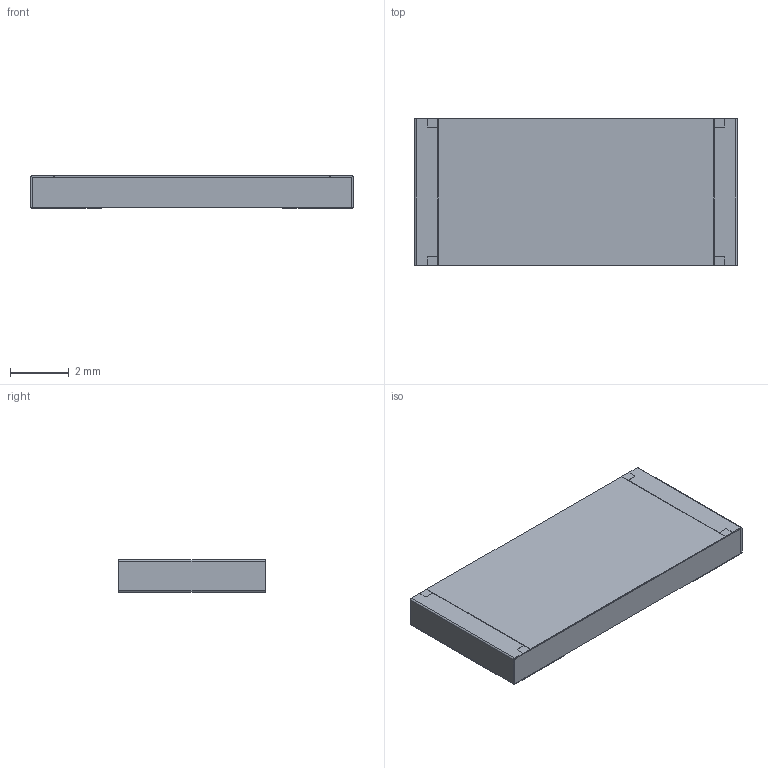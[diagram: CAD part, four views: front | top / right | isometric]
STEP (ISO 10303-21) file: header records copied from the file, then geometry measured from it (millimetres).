
FILE_DESCRIPTION(/* description */ ('Unknown'),/* implementation_level */ '2;1');
FILE_NAME(/* name */ '355012RJT',/* time_stamp */ '2024-10-14T14:52:04+02:00',/* author */ ('Unknown'),/* organization */ ('Unknown'),/* preprocessor_version */ 'ST-DEVELOPER v18.102',/* originating_system */ 'Solid Edge',/* authorisation */ 'Unknown');
FILE_SCHEMA (('AUTOMOTIVE_DESIGN {1 0 10303 214 3 1 1}'));
Length unit declared in the file: millimetre
Products named in the file (1): 355012RJT
Bounding box: 11 x 5 x 1.1 mm (x, y, z)
Volume: 59.6 mm3; surface area: 145.5 mm2
Topology: 1 solids, 1 shells, 66 faces, 184 edges, 120 vertices
Faces by surface type: plane 50, cylinder 16
Entity records: 2583 total; most frequent: CARTESIAN_POINT 371, ORIENTED_EDGE 368, DIRECTION 350, EDGE_CURVE 184, LINE 152, VECTOR 152, VERTEX_POINT 120, AXIS2_PLACEMENT_3D 99
